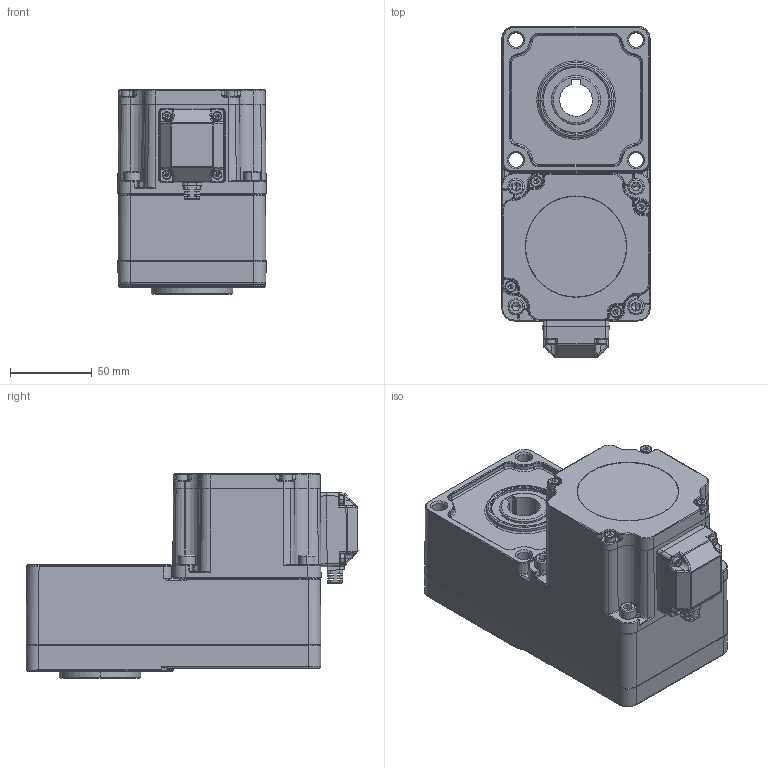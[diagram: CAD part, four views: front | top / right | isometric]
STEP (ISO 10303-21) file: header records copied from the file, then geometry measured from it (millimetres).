
FILE_DESCRIPTION((''),'2;1');
FILE_NAME('5GUL2__ASM','2023-10-07T',('Administrator'),(''),'PRO/ENGINEER BY PARAMETRIC TECHNOLOGY CORPORATION, 2010280','PRO/ENGINEER BY PARAMETRIC TECHNOLOGY CORPORATION, 2010280','');
FILE_SCHEMA(('CONFIG_CONTROL_DESIGN'));
Length unit declared in the file: millimetre
Products named in the file (23): HEXAGON_SOCKET_HEAD_CAP_S-25098; HEXAGON_SOCKET_HEAD_CAP_S-21245; 90_K2_______STEP; HEXAGON_SOCKET_HEAD_CAP_S-53196; NONE-5692; NONE-41890; ________2023_6_28_STEP_STEP_ASM; K2_______STEP; 90_104___________STEP_ASM; K2____90_______STEP; 90_______STEP_ASM; HEXAGON_SOCKET_HEAD_CAP_S-18831; __L2________________L__________; ______2____L2________________L_; _L2________________L____________ASM; L2________________L___________2_ASM; 90L2_STEP_ASM_1_ASM_ASM0001_ASM_ASM; ASM0001_ASM_1_ASM_90L2_ASM_1_AS_ASM; 90L2_ASM_1_ASM_90L2_________2___ASM; 90L2_________2__90L2_________ASM; 5GUL2_________ASM; _5GUL2____; 5GUL2__ASM
Assembly tree (36 placements, depth 9):
  5GUL2__ASM
    5GUL2_________ASM
      HEXAGON_SOCKET_HEAD_CAP_S-25098  x6
      90_______STEP_ASM
        HEXAGON_SOCKET_HEAD_CAP_S-21245  x4
        90_K2_______STEP
        90_104___________STEP_ASM
          HEXAGON_SOCKET_HEAD_CAP_S-53196  x4
          ________2023_6_28_STEP_STEP_ASM
            NONE-5692
            NONE-41890
          K2_______STEP
        K2____90_______STEP
      90L2_________2__90L2_________ASM
        90L2_ASM_1_ASM_90L2_________2___ASM
          ASM0001_ASM_1_ASM_90L2_ASM_1_AS_ASM
            90L2_STEP_ASM_1_ASM_ASM0001_ASM_ASM
              L2________________L___________2_ASM
                HEXAGON_SOCKET_HEAD_CAP_S-18831  x4
                _L2________________L____________ASM
                  __L2________________L__________
                  ______2____L2________________L_
    _5GUL2____
Bounding box: 90.97 x 203.55 x 125.2 mm (x, y, z)
Volume: 1429709.6 mm3; surface area: 190042.7 mm2
Topology: 25 solids, 27 shells, 1735 faces, 4162 edges, 2426 vertices
Faces by surface type: plane 561, cylinder 411, cone 326, torus 226, bspline 153, sphere 58
Entity records: 47560 total; most frequent: CARTESIAN_POINT 15358, DIRECTION 6800, ORIENTED_EDGE 6586, EDGE_CURVE 3293, AXIS2_PLACEMENT_3D 2685, VERTEX_POINT 1964, EDGE_LOOP 1505, VECTOR 1430
